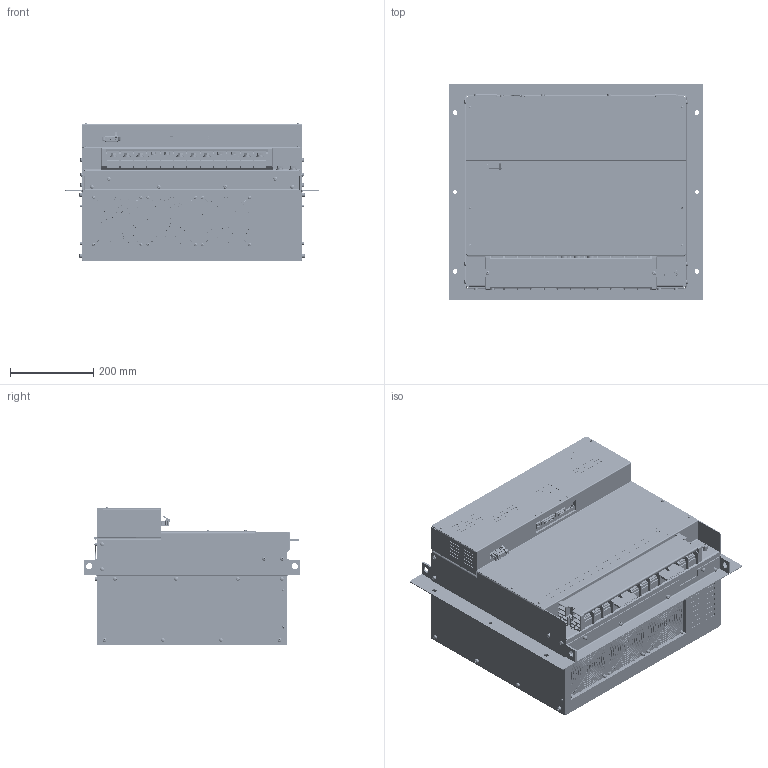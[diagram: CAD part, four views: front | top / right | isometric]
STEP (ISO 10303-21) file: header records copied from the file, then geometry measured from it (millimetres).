
FILE_DESCRIPTION (( 'STEP AP203' ), '1' );
FILE_NAME ('NCR-HA3_753#SE-85890.STEP', '2021-07-08T08:00:15', ( '' ), ( '' ), 'SwSTEP 2.0', 'SolidWorks 2018', '' );
FILE_SCHEMA (( 'CONFIG_CONTROL_DESIGN' ));
Products named in the file (1): NCR-HA3_753#SE-85890
Bounding box: 610 x 520 x 332.95 mm (x, y, z)
Volume: 68522838.5 mm3; surface area: 1944104.9 mm2
Topology: 4 solids, 40 shells, 15264 faces, 41302 edges, 26548 vertices
Faces by surface type: plane 9436, cylinder 2574, bspline 1686, cone 1170, torus 266, sphere 132
Entity records: 537388 total; most frequent: CARTESIAN_POINT 158478, ORIENTED_EDGE 82340, DIRECTION 73924, EDGE_CURVE 41170, VERTEX_POINT 26548, VECTOR 26020, LINE 26020, AXIS2_PLACEMENT_3D 23952
